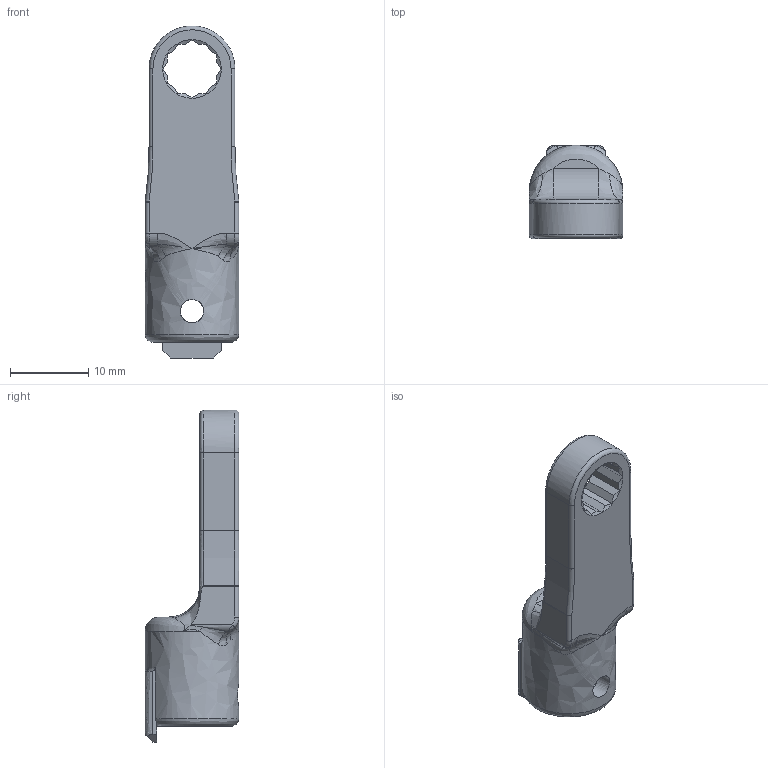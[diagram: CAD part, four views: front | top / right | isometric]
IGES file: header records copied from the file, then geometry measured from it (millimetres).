
Global section: file name: RH8DX1／4,2; native system: 2HAutodesk Inventor 2018; preprocessor: unknown; author: Q600; date: 20190515.204051; units: millimetre
Bounding box: 12 x 12 x 42.5 mm (x, y, z)
Volume: 2319.7 mm3; surface area: 1989 mm2
Topology: 1 solids, 1 shells, 105 faces, 284 edges, 174 vertices
Faces by surface type: bspline 105
